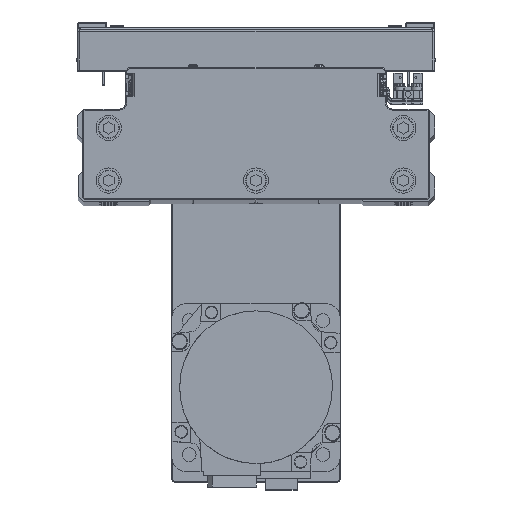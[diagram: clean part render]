
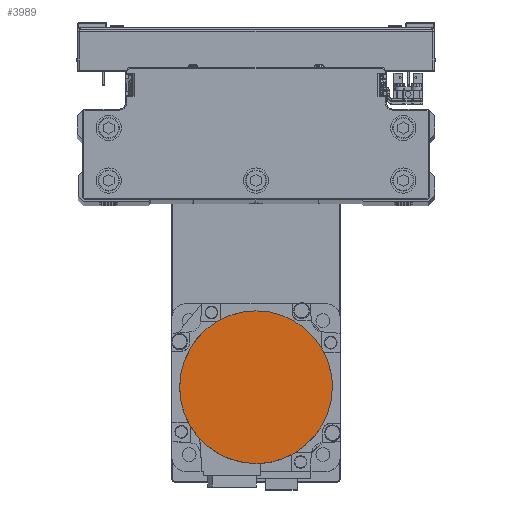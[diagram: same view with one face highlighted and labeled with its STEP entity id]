
A CAD part, top view. The second image highlights one B-rep face of the part: STEP entity #3989.
In plain terms, the highlighted planar face has unit normal (0, 0, 1) as drawn and (0, 0, -1) by its records, which use the part's own axes.
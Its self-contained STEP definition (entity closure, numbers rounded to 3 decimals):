
#666 = CARTESIAN_POINT ( 'NONE',  ( -18.192, 31.502, -122.2 ) ) ;
#716 = CIRCLE ( 'NONE', #26146, 36.3 ) ;
#1992 = ORIENTED_EDGE ( 'NONE', *, *, #21703, .F. ) ;
#2791 = CARTESIAN_POINT ( 'NONE',  ( -32.628, -16.086, -122.2 ) ) ;
#2807 = AXIS2_PLACEMENT_3D ( 'NONE', #35113, #3858, #17748 ) ;
#3100 = B_SPLINE_CURVE_WITH_KNOTS ( 'NONE', 3,
 ( #23515, #37462, #6211, #20102, #34041, #2791, #16681, #30604, #44570, #13283, #27177, #41129, #9845, #23741, #37700, #6437, #20333, #34268 ),
 .UNSPECIFIED., .F., .F.,
 ( 4, 2, 2, 2, 2, 2, 2, 2, 4 ),
 ( 0., 0.125, 0.25, 0.375, 0.5, 0.625, 0.75, 0.875, 1. ),
 .UNSPECIFIED. ) ;
#3858 = DIRECTION ( 'NONE',  ( 0., 0., 1. ) ) ;
#3989 = ADVANCED_FACE ( 'NONE', ( #7281 ), #21181, .F. ) ;
#4085 = CARTESIAN_POINT ( 'NONE',  ( -9.412, 35.139, -122.2 ) ) ;
#5049 = DIRECTION ( 'NONE',  ( 0., 0., 1. ) ) ;
#5591 = AXIS2_PLACEMENT_3D ( 'NONE', #9448, #23331, #37294 ) ;
#6211 = CARTESIAN_POINT ( 'NONE',  ( -36.066, -4.752, -122.2 ) ) ;
#6437 = CARTESIAN_POINT ( 'NONE',  ( -4.752, -36.066, -122.2 ) ) ;
#6679 = VERTEX_POINT ( 'NONE', #22213 ) ;
#7281 = FACE_OUTER_BOUND ( 'NONE', #8149, .T. ) ;
#7509 = CARTESIAN_POINT ( 'NONE',  ( 0., 36.3, -122.2 ) ) ;
#8149 = EDGE_LOOP ( 'NONE', ( #32957, #1992, #22080, #36231 ) ) ;
#9111 = CARTESIAN_POINT ( 'NONE',  ( -36.3, 0., -122.2 ) ) ;
#9448 = CARTESIAN_POINT ( 'NONE',  ( 0., 0., -122.2 ) ) ;
#9845 = CARTESIAN_POINT ( 'NONE',  ( -16.086, -32.628, -122.2 ) ) ;
#9901 = B_SPLINE_CURVE_WITH_KNOTS ( 'NONE', 3,
 ( #7509, #21394, #35330, #4085, #17972, #31896, #666, #14548, #28464, #42433, #11137, #25021, #38976, #43819, #12529, #26430, #40379, #9111 ),
 .UNSPECIFIED., .F., .F.,
 ( 4, 2, 2, 2, 2, 2, 2, 2, 4 ),
 ( 0., 0.125, 0.25, 0.375, 0.5, 0.625, 0.75, 0.875, 1. ),
 .UNSPECIFIED. ) ;
#11137 = CARTESIAN_POINT ( 'NONE',  ( -28.862, 22.143, -122.2 ) ) ;
#11554 = VERTEX_POINT ( 'NONE', #13850 ) ;
#12529 = CARTESIAN_POINT ( 'NONE',  ( -35.139, 9.412, -122.2 ) ) ;
#13283 = CARTESIAN_POINT ( 'NONE',  ( -23.988, -27.348, -122.2 ) ) ;
#13850 = CARTESIAN_POINT ( 'NONE',  ( 0., -36.3, -122.2 ) ) ;
#14548 = CARTESIAN_POINT ( 'NONE',  ( -22.143, 28.862, -122.2 ) ) ;
#16681 = CARTESIAN_POINT ( 'NONE',  ( -31.502, -18.192, -122.2 ) ) ;
#17748 = DIRECTION ( 'NONE',  ( 1., 0., 0. ) ) ;
#17972 = CARTESIAN_POINT ( 'NONE',  ( -11.696, 34.446, -122.2 ) ) ;
#18942 = DIRECTION ( 'NONE',  ( -1., 0., 0. ) ) ;
#20102 = CARTESIAN_POINT ( 'NONE',  ( -35.139, -9.412, -122.2 ) ) ;
#20333 = CARTESIAN_POINT ( 'NONE',  ( -2.376, -36.3, -122.2 ) ) ;
#21181 = PLANE ( 'NONE',  #2807 ) ;
#21394 = CARTESIAN_POINT ( 'NONE',  ( -2.376, 36.3, -122.2 ) ) ;
#21613 = VERTEX_POINT ( 'NONE', #36338 ) ;
#21703 = EDGE_CURVE ( 'NONE', #22140, #11554, #3100, .T. ) ;
#22080 = ORIENTED_EDGE ( 'NONE', *, *, #39484, .F. ) ;
#22140 = VERTEX_POINT ( 'NONE', #24766 ) ;
#22213 = CARTESIAN_POINT ( 'NONE',  ( 36.3, 0., -122.2 ) ) ;
#23331 = DIRECTION ( 'NONE',  ( 0., 0., 1. ) ) ;
#23515 = CARTESIAN_POINT ( 'NONE',  ( -36.3, 0., -122.2 ) ) ;
#23741 = CARTESIAN_POINT ( 'NONE',  ( -11.696, -34.446, -122.2 ) ) ;
#24766 = CARTESIAN_POINT ( 'NONE',  ( -36.3, 0., -122.2 ) ) ;
#25021 = CARTESIAN_POINT ( 'NONE',  ( -31.502, 18.192, -122.2 ) ) ;
#25242 = CIRCLE ( 'NONE', #5591, 36.3 ) ;
#26146 = AXIS2_PLACEMENT_3D ( 'NONE', #36305, #5049, #18942 ) ;
#26430 = CARTESIAN_POINT ( 'NONE',  ( -36.066, 4.752, -122.2 ) ) ;
#27177 = CARTESIAN_POINT ( 'NONE',  ( -22.143, -28.862, -122.2 ) ) ;
#28464 = CARTESIAN_POINT ( 'NONE',  ( -23.988, 27.348, -122.2 ) ) ;
#30604 = CARTESIAN_POINT ( 'NONE',  ( -28.862, -22.143, -122.2 ) ) ;
#31896 = CARTESIAN_POINT ( 'NONE',  ( -16.086, 32.628, -122.2 ) ) ;
#32957 = ORIENTED_EDGE ( 'NONE', *, *, #39888, .F. ) ;
#34041 = CARTESIAN_POINT ( 'NONE',  ( -34.446, -11.696, -122.2 ) ) ;
#34268 = CARTESIAN_POINT ( 'NONE',  ( 0., -36.3, -122.2 ) ) ;
#34768 = EDGE_CURVE ( 'NONE', #6679, #21613, #716, .T. ) ;
#35113 = CARTESIAN_POINT ( 'NONE',  ( 0., 0., -122.2 ) ) ;
#35330 = CARTESIAN_POINT ( 'NONE',  ( -4.752, 36.066, -122.2 ) ) ;
#36231 = ORIENTED_EDGE ( 'NONE', *, *, #34768, .F. ) ;
#36305 = CARTESIAN_POINT ( 'NONE',  ( 0., 0., -122.2 ) ) ;
#36338 = CARTESIAN_POINT ( 'NONE',  ( 0., 36.3, -122.2 ) ) ;
#37294 = DIRECTION ( 'NONE',  ( -1., 0., 0. ) ) ;
#37462 = CARTESIAN_POINT ( 'NONE',  ( -36.3, -2.376, -122.2 ) ) ;
#37700 = CARTESIAN_POINT ( 'NONE',  ( -9.412, -35.139, -122.2 ) ) ;
#38976 = CARTESIAN_POINT ( 'NONE',  ( -32.628, 16.086, -122.2 ) ) ;
#39484 = EDGE_CURVE ( 'NONE', #21613, #22140, #9901, .T. ) ;
#39888 = EDGE_CURVE ( 'NONE', #11554, #6679, #25242, .T. ) ;
#40379 = CARTESIAN_POINT ( 'NONE',  ( -36.3, 2.376, -122.2 ) ) ;
#41129 = CARTESIAN_POINT ( 'NONE',  ( -18.192, -31.502, -122.2 ) ) ;
#42433 = CARTESIAN_POINT ( 'NONE',  ( -27.348, 23.988, -122.2 ) ) ;
#43819 = CARTESIAN_POINT ( 'NONE',  ( -34.446, 11.696, -122.2 ) ) ;
#44570 = CARTESIAN_POINT ( 'NONE',  ( -27.348, -23.988, -122.2 ) ) ;
